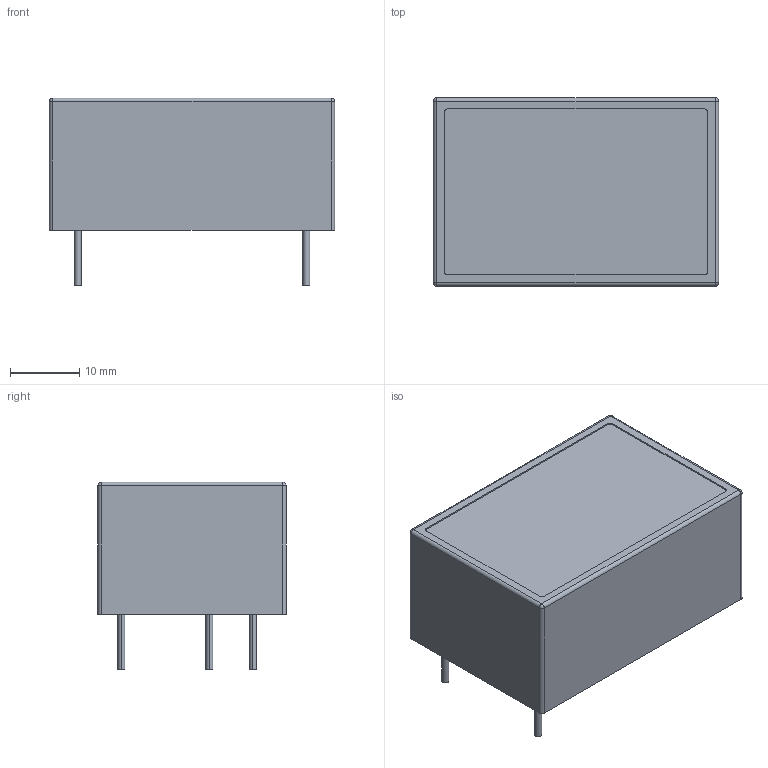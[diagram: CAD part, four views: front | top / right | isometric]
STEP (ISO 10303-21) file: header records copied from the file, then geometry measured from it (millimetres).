
FILE_DESCRIPTION((''),'2;1');
FILE_NAME('AVC','2016-01-28T',('arch'),(''),'PRO/ENGINEER BY PARAMETRIC TECHNOLOGY CORPORATION, 2008380','PRO/ENGINEER BY PARAMETRIC TECHNOLOGY CORPORATION, 2008380','');
FILE_SCHEMA(('CONFIG_CONTROL_DESIGN'));
Length unit declared in the file: millimetre
Products named in the file (1): AVC
Bounding box: 41.2 x 27.2 x 27.1 mm (x, y, z)
Volume: 21235.6 mm3; surface area: 4933.2 mm2
Topology: 1 solids, 1 shells, 39 faces, 84 edges, 52 vertices
Faces by surface type: cylinder 20, plane 15, sphere 4
Entity records: 1100 total; most frequent: DIRECTION 202, CARTESIAN_POINT 175, ORIENTED_EDGE 168, EDGE_CURVE 84, AXIS2_PLACEMENT_3D 79, VERTEX_POINT 52, VECTOR 44, LINE 44
